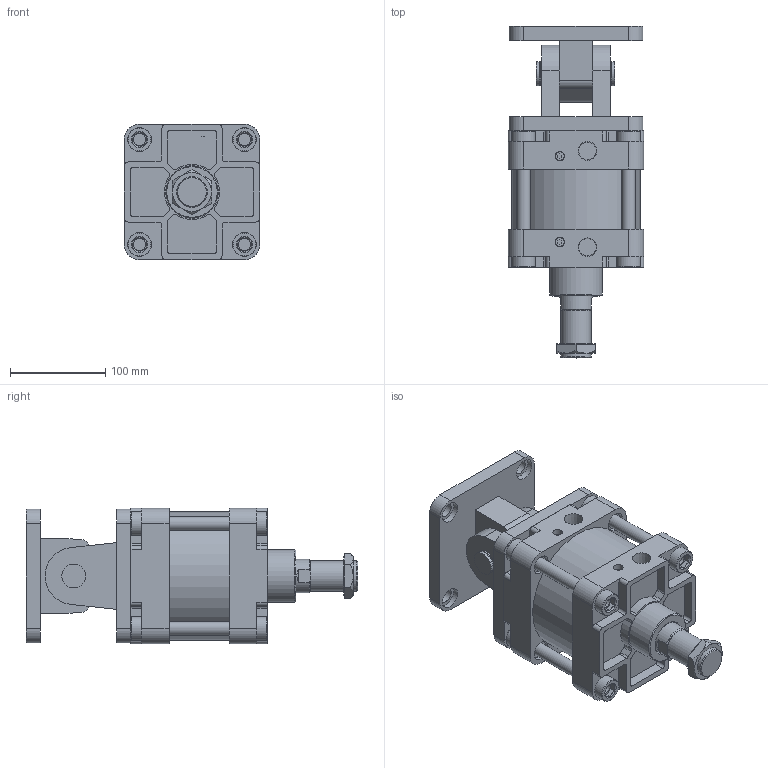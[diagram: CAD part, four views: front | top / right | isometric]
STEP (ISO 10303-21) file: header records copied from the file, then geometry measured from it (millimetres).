
FILE_DESCRIPTION(/* description */ ('Unknown'),/* implementation_level */ '2;1');
FILE_NAME(/* name */ 'WA125-0-CD',/* time_stamp */ '2026-07-17T16:59:03+08:00',/* author */ ('Unknown'),/* organization */ ('Unknown'),/* preprocessor_version */ 'ST-DEVELOPER v16.7',/* originating_system */ 'DEX',/* authorisation */ $);
FILE_SCHEMA (('CONFIG_CONTROL_DESIGN'));
Length unit declared in the file: millimetre
Products named in the file (10): WA125-0-CD; WA125_前5; WA125_後; WA125_鋁; M32-2.0P-10_Á³raditional)_Taiwan.950; WA125_CB; WA125_､ﾟｶbｬ｡; WA125_CBP; WA125_CA; WA125_T帽牙
Assembly tree (12 placements, depth 2):
  WA125-0-CD
    WA125_前5
    WA125_後
    WA125_鋁
    M32-2.0P-10_Á³raditional)_Taiwan.950
    WA125_CB
    WA125_､ﾟｶbｬ｡
    WA125_CBP
    WA125_CA
    WA125_T帽牙  x4
Bounding box: 142 x 348 x 142 mm (x, y, z)
Volume: 3230977.6 mm3; surface area: 473204.2 mm2
Topology: 12 solids, 12 shells, 469 faces, 1143 edges, 765 vertices
Faces by surface type: plane 261, cylinder 177, cone 23, torus 8
Full cylindrical faces by diameter (mm): 9 x2, 10 x2, 12.5 x8, 14 x4, 15 x8, 20 x8, 20.5 x8, 22.5 x8, 23.8 x2, 25 x14, 30 x1, 32 x1, 35 x1, 36 x1, 41 x1, 55 x1, 124.5 x1, 125 x3, 135 x1
Entity records: 12920 total; most frequent: CARTESIAN_POINT 1947, DIRECTION 1916, ORIENTED_EDGE 1672, EDGE_CURVE 836, AXIS2_PLACEMENT_3D 725, VERTEX_POINT 592, EDGE_LOOP 522, FACE_BOUND 522
